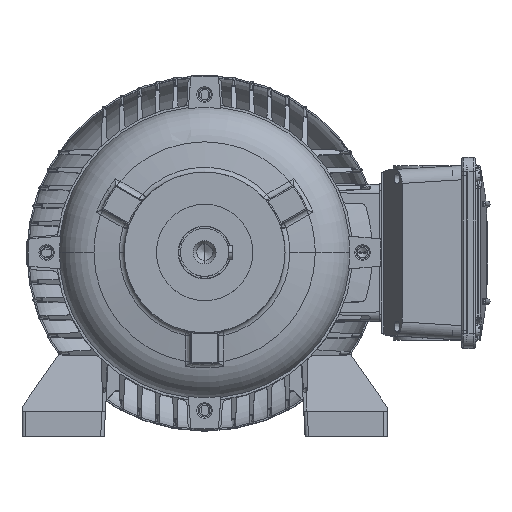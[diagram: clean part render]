
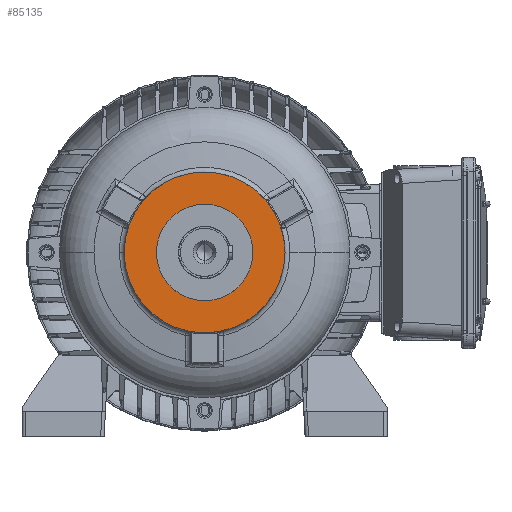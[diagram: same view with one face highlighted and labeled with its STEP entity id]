
A CAD part, top view. The second image highlights one B-rep face of the part: STEP entity #85135.
In plain terms, the highlighted planar face has unit normal (0, 0, 1) as drawn and (-1, 0, 0) by its records, which use the part's own axes.
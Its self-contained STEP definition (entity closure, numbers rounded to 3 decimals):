
#9369 = CARTESIAN_POINT ( 'NONE',  ( 2., 0., -42. ) ) ;
#11656 = EDGE_CURVE ( 'NONE', #96931, #199547, #23175, .T. ) ;
#18202 = VERTEX_POINT ( 'NONE', #129105 ) ;
#18263 = CARTESIAN_POINT ( 'NONE',  ( 2., -42., 0. ) ) ;
#23175 = CIRCLE ( 'NONE', #134847, 42. ) ;
#26396 = CARTESIAN_POINT ( 'NONE',  ( 2., 0., 0. ) ) ;
#30639 = CARTESIAN_POINT ( 'NONE',  ( 2., 0., 0. ) ) ;
#34748 = PLANE ( 'NONE',  #179277 ) ;
#42894 = DIRECTION ( 'NONE',  ( 0., 0., 1. ) ) ;
#47090 = DIRECTION ( 'NONE',  ( 0., 0., 1. ) ) ;
#57581 = AXIS2_PLACEMENT_3D ( 'NONE', #78882, #193518, #95326 ) ;
#72682 = CIRCLE ( 'NONE', #151135, 70. ) ;
#73967 = VERTEX_POINT ( 'NONE', #103772 ) ;
#75437 = CARTESIAN_POINT ( 'NONE',  ( 2., 0., 0. ) ) ;
#78882 = CARTESIAN_POINT ( 'NONE',  ( 2., 0., 0. ) ) ;
#85135 = ADVANCED_FACE ( 'NONE', ( #109575, #196795 ), #34748, .T. ) ;
#91848 = DIRECTION ( 'NONE',  ( 0., 0., 1. ) ) ;
#93205 = EDGE_LOOP ( 'NONE', ( #138403, #150428 ) ) ;
#95326 = DIRECTION ( 'NONE',  ( 0., 0., 1. ) ) ;
#96931 = VERTEX_POINT ( 'NONE', #9369 ) ;
#97248 = CARTESIAN_POINT ( 'NONE',  ( 2., 0., 42. ) ) ;
#100199 = ORIENTED_EDGE ( 'NONE', *, *, #202316, .T. ) ;
#103579 = CIRCLE ( 'NONE', #57581, 42. ) ;
#103772 = CARTESIAN_POINT ( 'NONE',  ( 2., 0., 70. ) ) ;
#109575 = FACE_OUTER_BOUND ( 'NONE', #114431, .T. ) ;
#114431 = EDGE_LOOP ( 'NONE', ( #100199, #185988 ) ) ;
#127668 = EDGE_CURVE ( 'NONE', #199547, #96931, #103579, .T. ) ;
#129105 = CARTESIAN_POINT ( 'NONE',  ( 2., 0., -70. ) ) ;
#134847 = AXIS2_PLACEMENT_3D ( 'NONE', #75437, #190057, #91848 ) ;
#138403 = ORIENTED_EDGE ( 'NONE', *, *, #127668, .F. ) ;
#141072 = DIRECTION ( 'NONE',  ( -1., 0., 0. ) ) ;
#145312 = DIRECTION ( 'NONE',  ( -1., 0., 0. ) ) ;
#149441 = DIRECTION ( 'NONE',  ( 0., 0., 1. ) ) ;
#150428 = ORIENTED_EDGE ( 'NONE', *, *, #11656, .F. ) ;
#151135 = AXIS2_PLACEMENT_3D ( 'NONE', #26396, #141072, #42894 ) ;
#154474 = EDGE_CURVE ( 'NONE', #18202, #73967, #179972, .T. ) ;
#179277 = AXIS2_PLACEMENT_3D ( 'NONE', #18263, #198116, #149441 ) ;
#179972 = CIRCLE ( 'NONE', #210635, 70. ) ;
#185988 = ORIENTED_EDGE ( 'NONE', *, *, #154474, .T. ) ;
#190057 = DIRECTION ( 'NONE',  ( -1., 0., 0. ) ) ;
#193518 = DIRECTION ( 'NONE',  ( -1., 0., 0. ) ) ;
#196795 = FACE_BOUND ( 'NONE', #93205, .T. ) ;
#198116 = DIRECTION ( 'NONE',  ( -1., 0., 0. ) ) ;
#199547 = VERTEX_POINT ( 'NONE', #97248 ) ;
#202316 = EDGE_CURVE ( 'NONE', #73967, #18202, #72682, .T. ) ;
#210635 = AXIS2_PLACEMENT_3D ( 'NONE', #30639, #145312, #47090 ) ;
